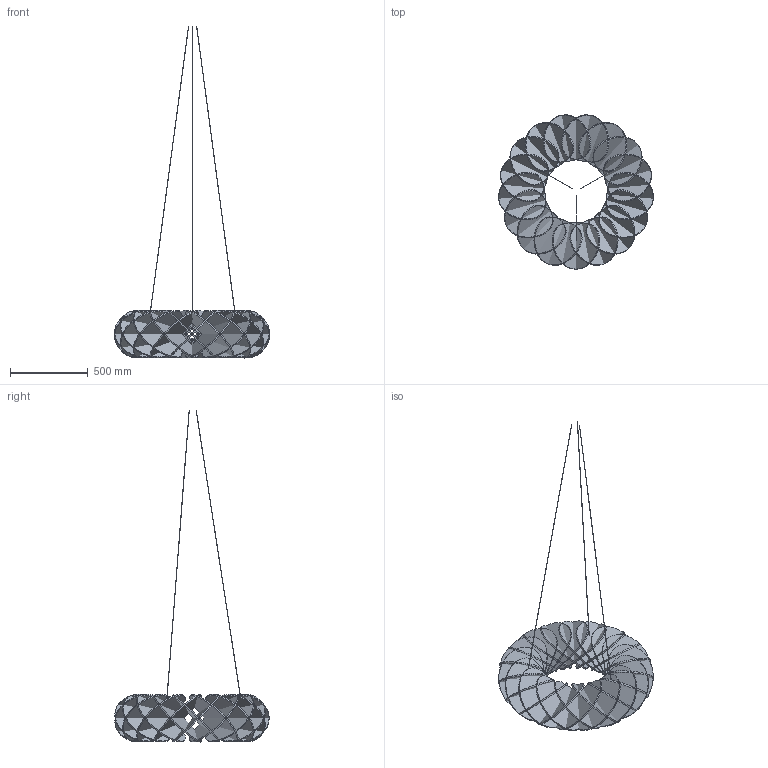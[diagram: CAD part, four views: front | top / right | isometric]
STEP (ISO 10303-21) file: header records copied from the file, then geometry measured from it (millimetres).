
FILE_DESCRIPTION(/* description */ (''),/* implementation_level */ '2;1');
FILE_NAME(/* name */ 'Halo Baffle 1000_Lumenear_STEP',/* time_stamp */ '2024-11-07T11:42:08+01:00',/* author */ (''),/* organization */ (''),/* preprocessor_version */ 'ST-DEVELOPER v16.5',/* originating_system */ 'Rhino 7.37',/* authorisation */ '');
FILE_SCHEMA (('CONFIG_CONTROL_DESIGN'));
Length unit declared in the file: millimetre
Products named in the file (1): Document
Bounding box: 997.05 x 993.92 x 2138.98 mm (x, y, z)
Volume: 31438849.3 mm3; surface area: 7364157.9 mm2
Topology: 37 solids, 37 shells, 148 faces, 222 edges, 148 vertices
Faces by surface type: plane 74, bspline 68, cylinder 6
Entity records: 17332 total; most frequent: CARTESIAN_POINT 15398, ORIENTED_EDGE 444, EDGE_CURVE 222, B_SPLINE_CURVE_WITH_KNOTS 204, ADVANCED_FACE 148, FACE_OUTER_BOUND 148, EDGE_LOOP 148, VERTEX_POINT 148
